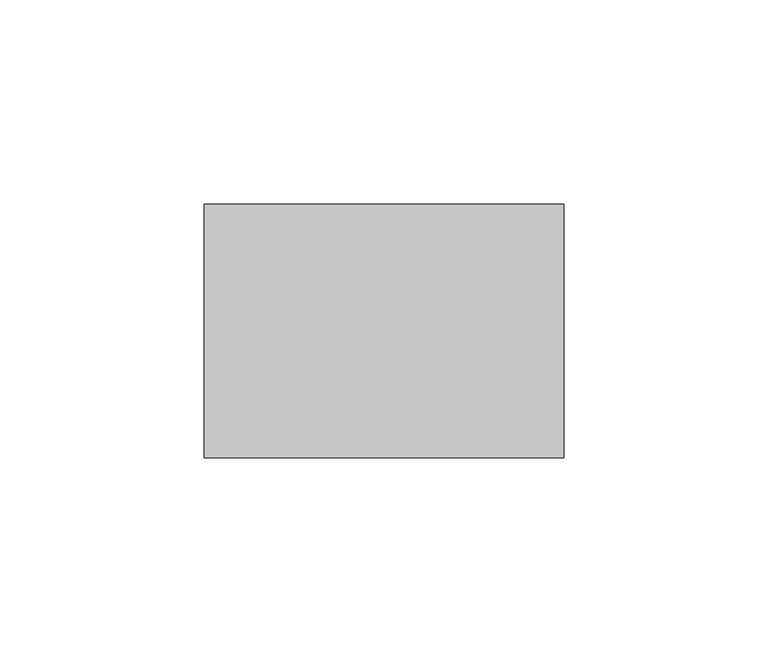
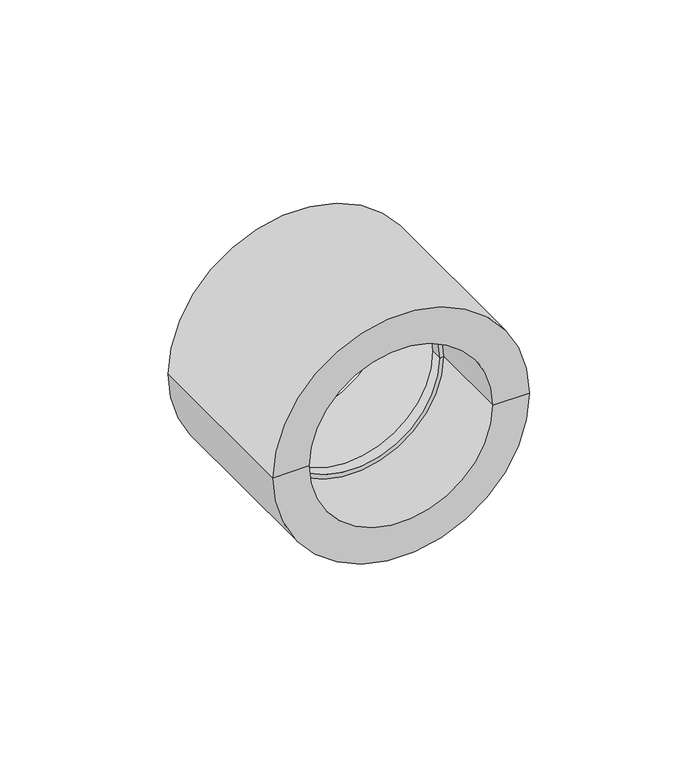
"""IFC4 building model written with IfcOpenShell, lengths in millimetres: pipe fitting geometry, NIRON RED termofusion manguito : Estándar."""

from ifc_helpers import new_model, si_unit, frame, origin, place, context, project, spatial, polyline, circle_curve, source, transform, mapped, element, save
from ifc_brep_helpers import plane_surface, cylinder_surface, revolved_surface, advanced_brep


def pipe_fitting_09dd5e3b(model_context):
    return source(origin(), model_context, "Body", "AdvancedBrep", [
        advanced_brep(
        [(44.0, 62.0, 0.0), (-44.0, 62.0, 0.0), (-31.5, 62.0, 0.0), (31.5, 62.0, 0.0), (44.0, 0.0, 0.0), (-44.0, 0.0, 0.0), (31.5, 0.0, 0.0), (-31.5, 0.0, 0.0), (31.5, 29.0, 0.0), (-31.5, 29.0, 0.0), (30.0, 29.0, 0.0), (-30.0, 29.0, 0.0), (30.0, 33.0, 0.0), (-30.0, 33.0, 0.0), (31.5, 33.0, 0.0), (-31.5, 33.0, 0.0)],
        [
            (0, 1, circle_curve(frame((0.0, 62.0, 0.0), z_axis=(0.0, 1.0, 0.0), x_axis=(-1.0, 0.0, 0.0)), 44.0)),
            (1, 2),
            (2, 3, circle_curve(frame((0.0, 62.0, 0.0), z_axis=(0.0, -1.0, 0.0), x_axis=(-1.0, 0.0, 0.0)), 31.5)),
            (3, 0),
            (1, 0, circle_curve(frame((0.0, 62.0, 0.0), z_axis=(0.0, 1.0, 0.0), x_axis=(-1.0, 0.0, 0.0)), 44.0)),
            (3, 2, circle_curve(frame((0.0, 62.0, 0.0), z_axis=(0.0, -1.0, 0.0), x_axis=(-1.0, 0.0, 0.0)), 31.5)),
            (4, 5, circle_curve(frame((0.0, 0.0, 0.0), z_axis=(0.0, 1.0, 0.0), x_axis=(-1.0, 0.0, 0.0)), 44.0)),
            (5, 1),
            (0, 4),
            (5, 4, circle_curve(frame((0.0, 0.0, 0.0), z_axis=(0.0, 1.0, 0.0), x_axis=(-1.0, 0.0, 0.0)), 44.0)),
            (6, 7, circle_curve(frame((0.0, 0.0, 0.0), z_axis=(0.0, 1.0, 0.0), x_axis=(-1.0, 0.0, 0.0)), 31.5)),
            (7, 5),
            (4, 6),
            (7, 6, circle_curve(frame((0.0, 0.0, 0.0), z_axis=(0.0, 1.0, 0.0), x_axis=(-1.0, 0.0, 0.0)), 31.5)),
            (8, 9, circle_curve(frame((0.0, 29.0, 0.0), z_axis=(0.0, 1.0, 0.0), x_axis=(-1.0, 0.0, 0.0)), 31.5)),
            (9, 7),
            (6, 8),
            (9, 8, circle_curve(frame((0.0, 29.0, 0.0), z_axis=(0.0, 1.0, 0.0), x_axis=(-1.0, 0.0, 0.0)), 31.5)),
            (10, 11, circle_curve(frame((0.0, 29.0, 0.0), z_axis=(0.0, 1.0, 0.0), x_axis=(-1.0, 0.0, 0.0)), 30.0)),
            (11, 9),
            (8, 10),
            (11, 10, circle_curve(frame((0.0, 29.0, 0.0), z_axis=(0.0, 1.0, 0.0), x_axis=(-1.0, 0.0, 0.0)), 30.0)),
            (12, 13, circle_curve(frame((0.0, 33.0, 0.0), z_axis=(0.0, 1.0, 0.0), x_axis=(-1.0, 0.0, 0.0)), 30.0)),
            (13, 11),
            (10, 12),
            (13, 12, circle_curve(frame((0.0, 33.0, 0.0), z_axis=(0.0, 1.0, 0.0), x_axis=(-1.0, 0.0, 0.0)), 30.0)),
            (14, 15, circle_curve(frame((0.0, 33.0, 0.0), z_axis=(0.0, 1.0, 0.0), x_axis=(-1.0, 0.0, 0.0)), 31.5)),
            (15, 13),
            (12, 14),
            (15, 14, circle_curve(frame((0.0, 33.0, 0.0), z_axis=(0.0, 1.0, 0.0), x_axis=(-1.0, 0.0, 0.0)), 31.5)),
            (2, 15),
            (14, 3),
        ],
        [
            plane_surface(frame((0.0, 62.0, 0.0), z_axis=(0.0, 1.0, 0.0), x_axis=(-1.0, 0.0, 0.0))),
            cylinder_surface(frame((0.0, 87.0, 0.0), z_axis=(0.0, -1.0, 0.0), x_axis=(-1.0, 0.0, 0.0)), 44.0),
            plane_surface(frame((0.0, 0.0, 0.0), z_axis=(0.0, -1.0, 0.0), x_axis=(-1.0, 0.0, 0.0))),
            revolved_surface(polyline([(-31.5, 0.0, 0.0), (-31.5, 29.0, 0.0)]), (0.0, 87.0, 0.0), (0.0, -1.0, 0.0)),
            plane_surface(frame((0.0, 29.0, 0.0), z_axis=(0.0, -1.0, 0.0), x_axis=(-1.0, 0.0, 0.0))),
            revolved_surface(polyline([(-30.0, 29.0, 0.0), (-30.0, 33.0, 0.0)]), (0.0, 87.0, 0.0), (0.0, -1.0, 0.0)),
            plane_surface(frame((0.0, 33.0, 0.0), z_axis=(0.0, 1.0, 0.0), x_axis=(-1.0, 0.0, 0.0))),
            revolved_surface(polyline([(-31.5, 33.0, 0.0), (-31.5, 62.0, 0.0)]), (0.0, 87.0, 0.0), (0.0, -1.0, 0.0)),
        ],
        [
            (0, [[1, 2, 3, 4]]),
            (0, [[5, -4, 6, -2]]),
            (1, [[7, 8, -1, 9]]),
            (1, [[10, -9, -5, -8]]),
            (2, [[11, 12, -7, 13]]),
            (2, [[14, -13, -10, -12]]),
            (3, [[15, 16, -11, 17]]),
            (3, [[18, -17, -14, -16]]),
            (4, [[19, 20, -15, 21]]),
            (4, [[22, -21, -18, -20]]),
            (5, [[23, 24, -19, 25]]),
            (5, [[26, -25, -22, -24]]),
            (6, [[27, 28, -23, 29]]),
            (6, [[30, -29, -26, -28]]),
            (7, [[-3, 31, -27, 32]]),
            (7, [[-6, -32, -30, -31]]),
        ],
    ),
    ])


if __name__ == "__main__":
    model = new_model("IFC4")
    model_context = context("Model", 3, world=origin())
    ifc_project = project(units=[si_unit("LENGTHUNIT", "METRE", prefix="MILLI")], contexts=[model_context])
    site = spatial("IfcSite", under=ifc_project)
    building = spatial("IfcBuilding", under=site)
    placement = place(None, origin())
    pipe_fitting_shape = pipe_fitting_09dd5e3b(model_context)
    element("IfcPipeFitting", 1, ObjectType="NIRON RED termofusion manguito : Estándar", at=placement, inside=building, context=model_context, shape_type="MappedRepresentation", body=[
        mapped(pipe_fitting_shape, transform((0.0, 0.0, 0.0), x_axis=(1.0, 0.0, 0.0), y_axis=(0.0, 1.0, 0.0), z_axis=(0.0, 0.0, 1.0))),
    ])
    save(model, "model.ifc")
